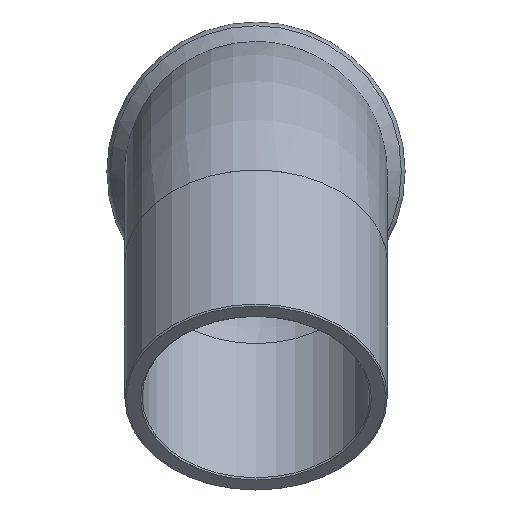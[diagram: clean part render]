
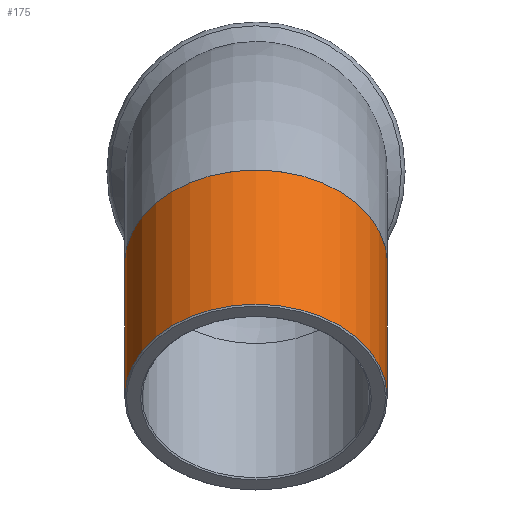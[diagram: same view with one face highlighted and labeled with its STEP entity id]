
A CAD part, top view. The second image highlights one B-rep face of the part: STEP entity #175.
In plain terms, the highlighted cylindrical face has radius 17.462 mm (diameter 34.925 mm), a full revolution.
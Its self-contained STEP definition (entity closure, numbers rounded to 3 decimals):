
#144=CARTESIAN_POINT('',(17.462,11.738,47.518));
#145=VERTEX_POINT('',#144);
#146=CARTESIAN_POINT('',(0.0,11.738,47.518));
#147=DIRECTION('',(0.0,-0.707,0.707));
#148=DIRECTION('',(-1.0,0.0,0.0));
#149=AXIS2_PLACEMENT_3D('',#146,#147,#148);
#150=CIRCLE('',#149,17.462);
#151=EDGE_CURVE('',#145,#145,#150,.T.);
#156=CARTESIAN_POINT('',(0.0,29.628,29.628));
#157=DIRECTION('',(0.0,-0.707,0.707));
#158=DIRECTION('',(-1.0,0.0,0.0));
#159=AXIS2_PLACEMENT_3D('',#156,#157,#158);
#160=CYLINDRICAL_SURFACE('',#159,17.462);
#161=CARTESIAN_POINT('',(17.462,29.628,29.628));
#162=VERTEX_POINT('',#161);
#163=CARTESIAN_POINT('',(0.0,29.628,29.628));
#164=DIRECTION('',(0.0,0.707,-0.707));
#165=DIRECTION('',(-1.0,0.0,0.0));
#166=AXIS2_PLACEMENT_3D('',#163,#164,#165);
#167=CIRCLE('',#166,17.462);
#168=EDGE_CURVE('',#162,#162,#167,.T.);
#169=ORIENTED_EDGE('',*,*,#168,.F.);
#170=EDGE_LOOP('',(#169));
#171=FACE_OUTER_BOUND('',#170,.T.);
#172=ORIENTED_EDGE('',*,*,#151,.F.);
#173=EDGE_LOOP('',(#172));
#174=FACE_BOUND('',#173,.T.);
#175=ADVANCED_FACE('',(#171,#174),#160,.T.);
